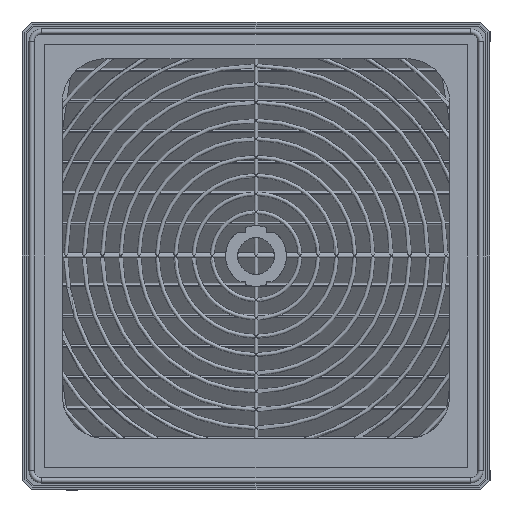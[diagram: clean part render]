
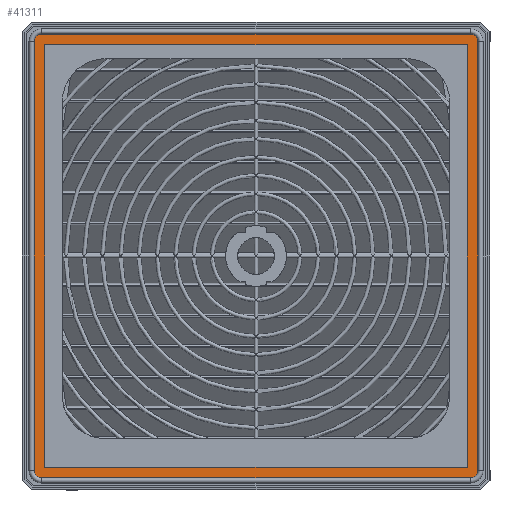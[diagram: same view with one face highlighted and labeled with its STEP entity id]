
A CAD part, front view. The second image highlights one B-rep face of the part: STEP entity #41311.
In plain terms, the highlighted planar face has unit normal (0, -1, 0).
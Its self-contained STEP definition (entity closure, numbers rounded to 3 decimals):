
#41311 = ADVANCED_FACE ( 'NONE', ( #50741, #50740 ), #50739, .T. ) ;
#41313 = EDGE_LOOP ( 'NONE', ( #41417, #41424, #41430, #41436, #41443, #41397, #41402, #41405 ) ) ;
#41366 = VERTEX_POINT ( 'NONE', #50896 ) ;
#41367 = ORIENTED_EDGE ( 'NONE', *, *, #41368, .T. ) ;
#41368 = EDGE_CURVE ( 'NONE', #41366, #41370, #50895, .T. ) ;
#41370 = VERTEX_POINT ( 'NONE', #50875 ) ;
#41372 = ORIENTED_EDGE ( 'NONE', *, *, #41374, .T. ) ;
#41374 = EDGE_CURVE ( 'NONE', #41370, #41413, #50874, .T. ) ;
#41393 = EDGE_CURVE ( 'NONE', #41441, #41395, #50912, .T. ) ;
#41395 = VERTEX_POINT ( 'NONE', #50907 ) ;
#41397 = ORIENTED_EDGE ( 'NONE', *, *, #41399, .T. ) ;
#41399 = EDGE_CURVE ( 'NONE', #41395, #41401, #50906, .T. ) ;
#41401 = VERTEX_POINT ( 'NONE', #50902 ) ;
#41402 = ORIENTED_EDGE ( 'NONE', *, *, #41403, .T. ) ;
#41403 = EDGE_CURVE ( 'NONE', #41401, #41404, #50962, .T. ) ;
#41404 = VERTEX_POINT ( 'NONE', #50958 ) ;
#41405 = ORIENTED_EDGE ( 'NONE', *, *, #41407, .T. ) ;
#41407 = EDGE_CURVE ( 'NONE', #41404, #41420, #50953, .T. ) ;
#41409 = EDGE_LOOP ( 'NONE', ( #41410, #41416, #41367, #41372 ) ) ;
#41410 = ORIENTED_EDGE ( 'NONE', *, *, #41412, .T. ) ;
#41412 = EDGE_CURVE ( 'NONE', #41413, #41415, #50949, .T. ) ;
#41413 = VERTEX_POINT ( 'NONE', #50945 ) ;
#41415 = VERTEX_POINT ( 'NONE', #50944 ) ;
#41416 = ORIENTED_EDGE ( 'NONE', *, *, #41517, .T. ) ;
#41417 = ORIENTED_EDGE ( 'NONE', *, *, #41418, .T. ) ;
#41418 = EDGE_CURVE ( 'NONE', #41420, #41422, #50943, .T. ) ;
#41420 = VERTEX_POINT ( 'NONE', #50938 ) ;
#41422 = VERTEX_POINT ( 'NONE', #50937 ) ;
#41424 = ORIENTED_EDGE ( 'NONE', *, *, #41426, .F. ) ;
#41426 = EDGE_CURVE ( 'NONE', #41428, #41422, #50936, .T. ) ;
#41428 = VERTEX_POINT ( 'NONE', #50932 ) ;
#41430 = ORIENTED_EDGE ( 'NONE', *, *, #41432, .T. ) ;
#41432 = EDGE_CURVE ( 'NONE', #41428, #41434, #50991, .T. ) ;
#41434 = VERTEX_POINT ( 'NONE', #50986 ) ;
#41436 = ORIENTED_EDGE ( 'NONE', *, *, #41438, .T. ) ;
#41438 = EDGE_CURVE ( 'NONE', #41434, #41441, #50985, .T. ) ;
#41441 = VERTEX_POINT ( 'NONE', #50981 ) ;
#41443 = ORIENTED_EDGE ( 'NONE', *, *, #41393, .T. ) ;
#41517 = EDGE_CURVE ( 'NONE', #41415, #41366, #51113, .T. ) ;
#50735 = DIRECTION ( 'NONE',  ( 0., 0., -1. ) ) ;
#50736 = DIRECTION ( 'NONE',  ( 0., -1., 0. ) ) ;
#50737 = CARTESIAN_POINT ( 'NONE',  ( -157., 30.5, -157. ) ) ;
#50738 = AXIS2_PLACEMENT_3D ( 'NONE', #50737, #50736, #50735 ) ;
#50739 = PLANE ( 'NONE',  #50738 ) ;
#50740 = FACE_BOUND ( 'NONE', #41409, .T. ) ;
#50741 = FACE_OUTER_BOUND ( 'NONE', #41313, .T. ) ;
#50871 = DIRECTION ( 'NONE',  ( 0., 0., -1. ) ) ;
#50872 = VECTOR ( 'NONE', #50871, 1000. ) ;
#50873 = CARTESIAN_POINT ( 'NONE',  ( 144.5, 30.5, 144.5 ) ) ;
#50874 = LINE ( 'NONE', #50873, #50872 ) ;
#50875 = CARTESIAN_POINT ( 'NONE',  ( 144.5, 30.5, 144.5 ) ) ;
#50890 = DIRECTION ( 'NONE',  ( 1., 0., 0. ) ) ;
#50891 = VECTOR ( 'NONE', #50890, 1000. ) ;
#50892 = CARTESIAN_POINT ( 'NONE',  ( -144.5, 30.5, 144.5 ) ) ;
#50895 = LINE ( 'NONE', #50892, #50891 ) ;
#50896 = CARTESIAN_POINT ( 'NONE',  ( -144.5, 30.5, 144.5 ) ) ;
#50901 = CARTESIAN_POINT ( 'NONE',  ( -146.5, 30.5, -146.5 ) ) ;
#50902 = CARTESIAN_POINT ( 'NONE',  ( -151.75, 30.5, -146.5 ) ) ;
#50903 = DIRECTION ( 'NONE',  ( 0., 0., -1. ) ) ;
#50904 = VECTOR ( 'NONE', #50903, 1000. ) ;
#50905 = CARTESIAN_POINT ( 'NONE',  ( -151.75, 30.5, 146.5 ) ) ;
#50906 = LINE ( 'NONE', #50905, #50904 ) ;
#50907 = CARTESIAN_POINT ( 'NONE',  ( -151.75, 30.5, 146.5 ) ) ;
#50908 = DIRECTION ( 'NONE',  ( 0., 0., -1. ) ) ;
#50909 = DIRECTION ( 'NONE',  ( 0., -1., 0. ) ) ;
#50910 = CARTESIAN_POINT ( 'NONE',  ( -146.5, 30.5, 146.5 ) ) ;
#50911 = AXIS2_PLACEMENT_3D ( 'NONE', #50910, #50909, #50908 ) ;
#50912 = CIRCLE ( 'NONE', #50911, 5.25 ) ;
#50932 = CARTESIAN_POINT ( 'NONE',  ( 151.75, 30.5, 146.5 ) ) ;
#50933 = DIRECTION ( 'NONE',  ( 0., 0., -1. ) ) ;
#50934 = VECTOR ( 'NONE', #50933, 1000. ) ;
#50935 = CARTESIAN_POINT ( 'NONE',  ( 151.75, 30.5, 146.5 ) ) ;
#50936 = LINE ( 'NONE', #50935, #50934 ) ;
#50937 = CARTESIAN_POINT ( 'NONE',  ( 151.75, 30.5, -146.5 ) ) ;
#50938 = CARTESIAN_POINT ( 'NONE',  ( 146.5, 30.5, -151.75 ) ) ;
#50939 = DIRECTION ( 'NONE',  ( 0., 0., -1. ) ) ;
#50940 = DIRECTION ( 'NONE',  ( 0., -1., 0. ) ) ;
#50941 = CARTESIAN_POINT ( 'NONE',  ( 146.5, 30.5, -146.5 ) ) ;
#50942 = AXIS2_PLACEMENT_3D ( 'NONE', #50941, #50940, #50939 ) ;
#50943 = CIRCLE ( 'NONE', #50942, 5.25 ) ;
#50944 = CARTESIAN_POINT ( 'NONE',  ( -144.5, 30.5, -144.5 ) ) ;
#50945 = CARTESIAN_POINT ( 'NONE',  ( 144.5, 30.5, -144.5 ) ) ;
#50946 = DIRECTION ( 'NONE',  ( -1., 0., 0. ) ) ;
#50947 = VECTOR ( 'NONE', #50946, 1000. ) ;
#50948 = CARTESIAN_POINT ( 'NONE',  ( -144.5, 30.5, -144.5 ) ) ;
#50949 = LINE ( 'NONE', #50948, #50947 ) ;
#50950 = DIRECTION ( 'NONE',  ( 1., 0., 0. ) ) ;
#50951 = VECTOR ( 'NONE', #50950, 1000. ) ;
#50952 = CARTESIAN_POINT ( 'NONE',  ( -146.5, 30.5, -151.75 ) ) ;
#50953 = LINE ( 'NONE', #50952, #50951 ) ;
#50958 = CARTESIAN_POINT ( 'NONE',  ( -146.5, 30.5, -151.75 ) ) ;
#50959 = DIRECTION ( 'NONE',  ( 0., 0., -1. ) ) ;
#50960 = DIRECTION ( 'NONE',  ( 0., -1., 0. ) ) ;
#50961 = AXIS2_PLACEMENT_3D ( 'NONE', #50901, #50960, #50959 ) ;
#50962 = CIRCLE ( 'NONE', #50961, 5.25 ) ;
#50981 = CARTESIAN_POINT ( 'NONE',  ( -146.5, 30.5, 151.75 ) ) ;
#50982 = DIRECTION ( 'NONE',  ( -1., 0., 0. ) ) ;
#50983 = VECTOR ( 'NONE', #50982, 1000. ) ;
#50984 = CARTESIAN_POINT ( 'NONE',  ( 146.5, 30.5, 151.75 ) ) ;
#50985 = LINE ( 'NONE', #50984, #50983 ) ;
#50986 = CARTESIAN_POINT ( 'NONE',  ( 146.5, 30.5, 151.75 ) ) ;
#50987 = DIRECTION ( 'NONE',  ( 0., 0., -1. ) ) ;
#50988 = DIRECTION ( 'NONE',  ( 0., -1., 0. ) ) ;
#50989 = CARTESIAN_POINT ( 'NONE',  ( 146.5, 30.5, 146.5 ) ) ;
#50990 = AXIS2_PLACEMENT_3D ( 'NONE', #50989, #50988, #50987 ) ;
#50991 = CIRCLE ( 'NONE', #50990, 5.25 ) ;
#51110 = DIRECTION ( 'NONE',  ( 0., 0., 1. ) ) ;
#51111 = VECTOR ( 'NONE', #51110, 1000. ) ;
#51112 = CARTESIAN_POINT ( 'NONE',  ( -144.5, 30.5, 144.5 ) ) ;
#51113 = LINE ( 'NONE', #51112, #51111 ) ;
